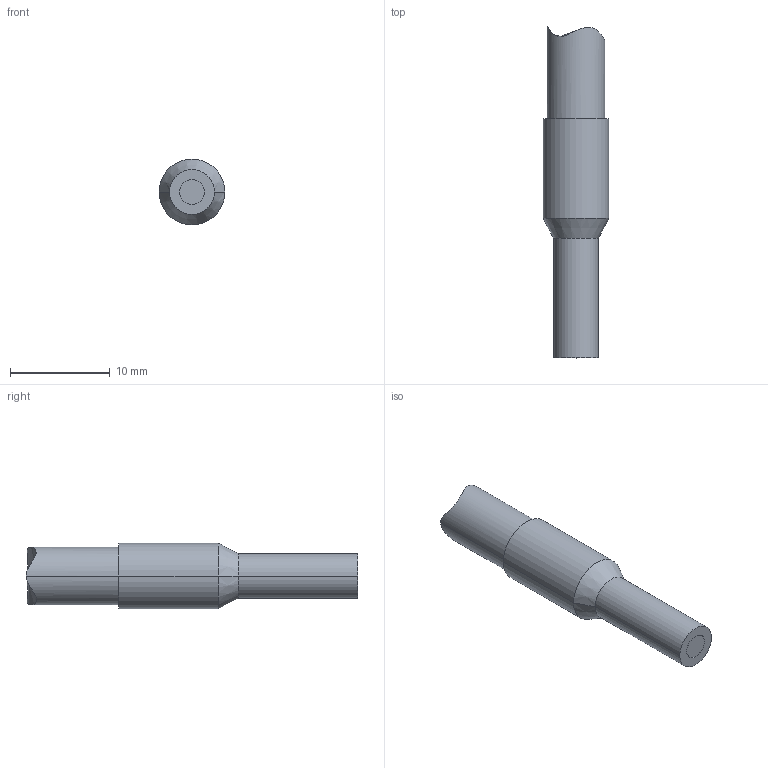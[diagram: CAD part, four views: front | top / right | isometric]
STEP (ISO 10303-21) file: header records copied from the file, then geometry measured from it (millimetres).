
FILE_DESCRIPTION((''),'2;1');
FILE_NAME('0000366354_PRT','2021-03-04T13:28:08',('pdmservice'),(''),'CREO PARAMETRIC BY PTC INC, 2018420','CREO PARAMETRIC BY PTC INC, 2018420','');
FILE_SCHEMA(('AUTOMOTIVE_DESIGN { 1 0 10303 214 1 1 1 1 }'));
Length unit declared in the file: millimetre
Products named in the file (1): 0000366354_PRT
Bounding box: 6.6 x 33.28 x 6.6 mm (x, y, z)
Volume: 811.6 mm3; surface area: 627.4 mm2
Topology: 1 solids, 1 shells, 14 faces, 26 edges, 16 vertices
Faces by surface type: cylinder 8, plane 3, cone 2, extrusion 1
Entity records: 1419 total; most frequent: CARTESIAN_POINT 159, PROPERTY_DEFINITION 122, REPRESENTATION 121, PROPERTY_DEFINITION_REPRESENTATION 121, DESCRIPTIVE_REPRESENTATION_ITEM 109, GENERAL_PROPERTY 104, GENERAL_PROPERTY_ASSOCIATION 104, DIRECTION 65
